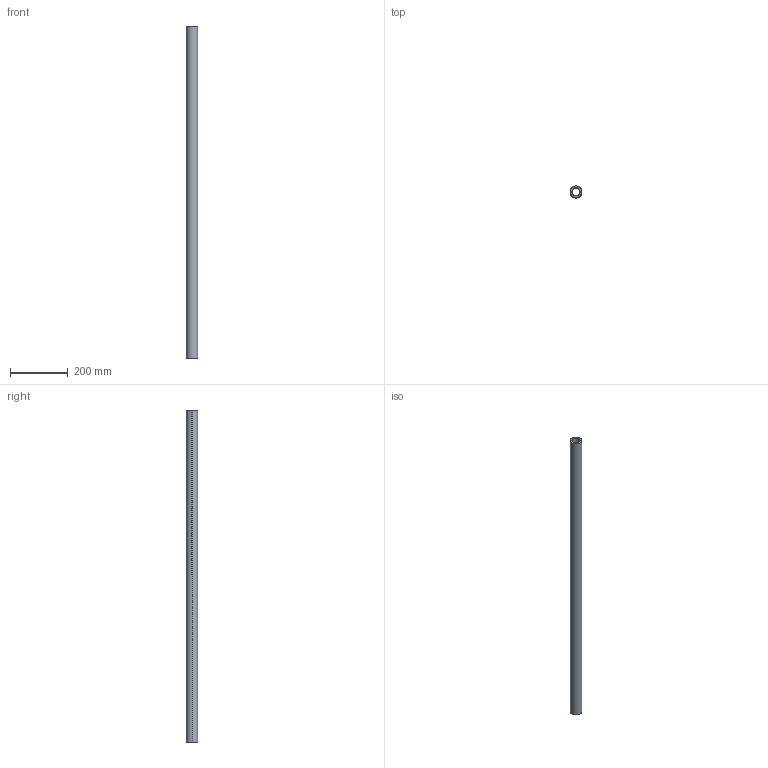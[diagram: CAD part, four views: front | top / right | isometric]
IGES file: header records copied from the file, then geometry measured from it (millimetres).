
Start section: SolidWorks IGES file using analytic representation for surfaces
Global section: file name: C:\Users\IanO\Desktop\L1771_v2\L1771.40_v2\L1771.40_v2_20230705_IGES\L1771.40-1150.igs; native system: SolidWorks 2019; preprocessor: SolidWorks 2019; author: IanO; date: 230705.160423; units: millimetre
Bounding box: 40 x 40 x 1150 mm (x, y, z)
Surface area: 246954.3 mm2 (no closed solid volume)
Topology: 0 solids, 0 shells, 6 faces, 272 edges, 272 vertices
Faces by surface type: revolution 4, bspline 2
